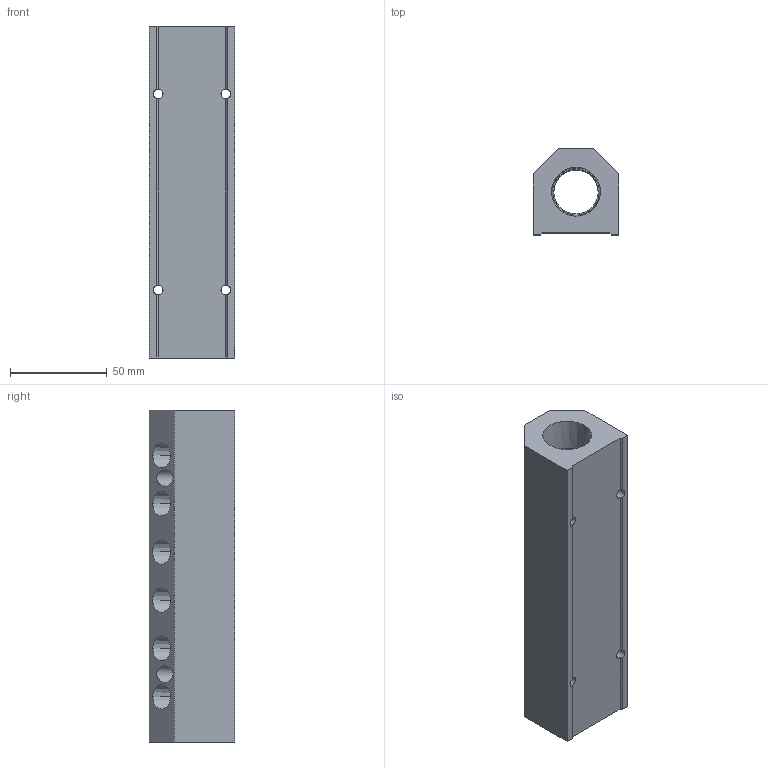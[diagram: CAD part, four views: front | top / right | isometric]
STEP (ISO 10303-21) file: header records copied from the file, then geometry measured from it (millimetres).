
FILE_DESCRIPTION (( 'STEP AP214' ), '1' );
FILE_NAME ('ALM6BD-N4N12-172B.step', '2022-02-06T14:10:34', ( '' ), ( '' ), 'SwSTEP 2.0', 'SolidWorks 2020', '' );
FILE_SCHEMA (( 'AUTOMOTIVE_DESIGN' ));
Length unit declared in the file: millimetre
Products named in the file (1): ALM6BD-N4N12-172B
Bounding box: 44.5 x 44.5 x 172 mm (x, y, z)
Volume: 211440.3 mm3; surface area: 48076.4 mm2
Topology: 1 solids, 1 shells, 319 faces, 848 edges, 560 vertices
Faces by surface type: plane 211, bspline 50, cone 36, cylinder 22
Entity records: 14460 total; most frequent: CARTESIAN_POINT 6506, ORIENTED_EDGE 1696, DIRECTION 1308, EDGE_CURVE 848, VECTOR 616, LINE 616, VERTEX_POINT 560, EDGE_LOOP 382
